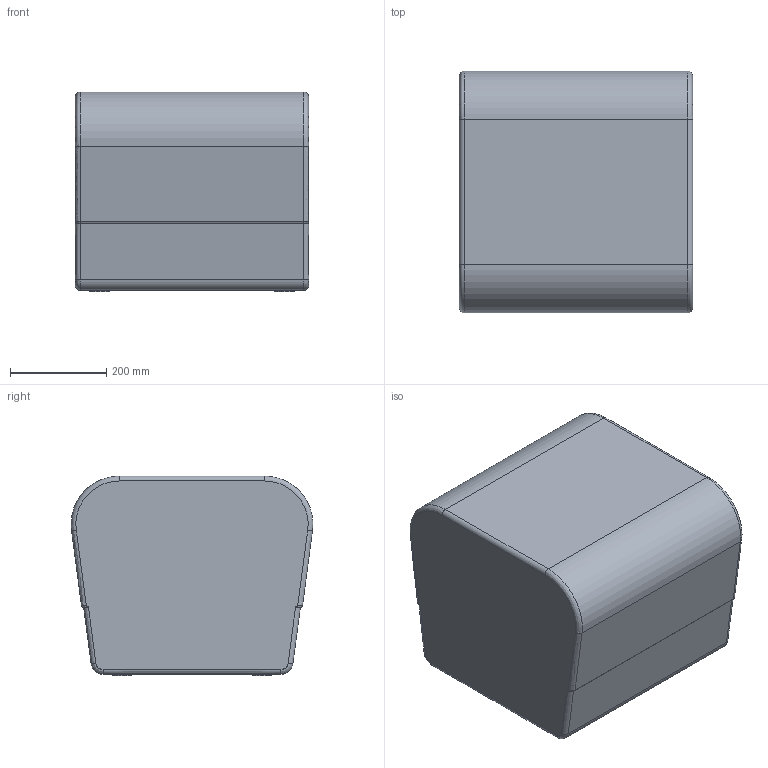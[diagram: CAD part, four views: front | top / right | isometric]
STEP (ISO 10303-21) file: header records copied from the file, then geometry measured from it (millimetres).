
FILE_DESCRIPTION(/* description */ (''),/* implementation_level */ '2;1');
FILE_NAME(/* name */ 'OP9A7F~1',/* time_stamp */ '2015-09-28T21:38:59+02:00',/* author */ (''),/* organization */ (''),/* preprocessor_version */ 'ST-DEVELOPER v15',/* originating_system */ '',/* authorisation */ '');
FILE_SCHEMA (('AUTOMOTIVE_DESIGN'));
Length unit declared in the file: millimetre
Products named in the file (1): Document
Bounding box: 485 x 502.42 x 415 mm (x, y, z)
Volume: 15110.2 mm3; surface area: 1175510.5 mm2
Topology: 4 solids, 8 shells, 54 faces, 139 edges, 97 vertices
Faces by surface type: bspline 38, plane 16
Entity records: 2047 total; most frequent: CARTESIAN_POINT 1229, ORIENTED_EDGE 216, EDGE_CURVE 138, VERTEX_POINT 96, ADVANCED_FACE 54, FACE_OUTER_BOUND 54, EDGE_LOOP 54, DIRECTION 24
